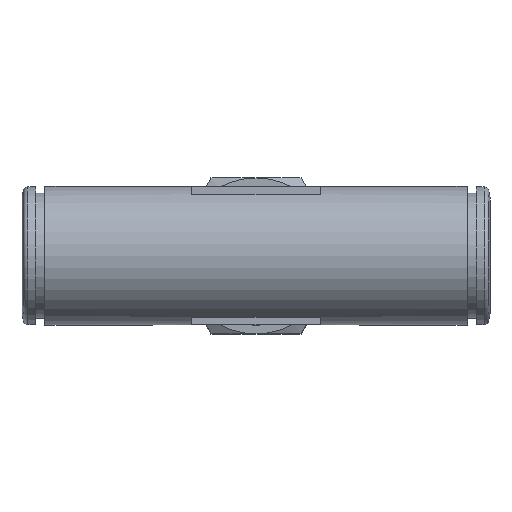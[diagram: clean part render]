
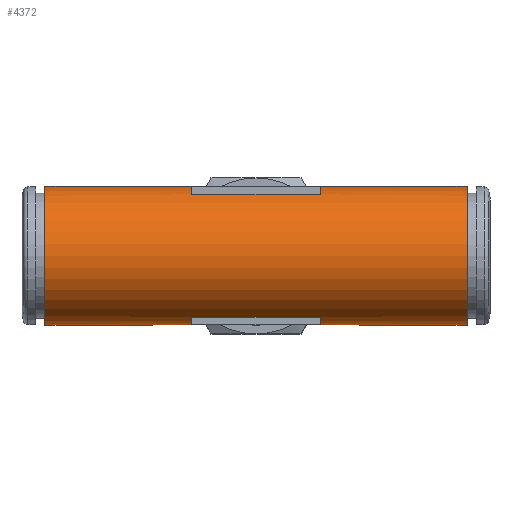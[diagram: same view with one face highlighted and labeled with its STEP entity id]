
A CAD part, top view. The second image highlights one B-rep face of the part: STEP entity #4372.
In plain terms, the highlighted cylindrical face has radius 7.55 mm (diameter 15.1 mm), a full revolution.
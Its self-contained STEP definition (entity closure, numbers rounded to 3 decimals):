
#16=ELLIPSE('',#4139,10.677,7.55);
#17=ELLIPSE('',#4146,10.677,7.55);
#2057=CYLINDRICAL_SURFACE('',#4132,7.55);
#2084=VECTOR('',#3694,1.);
#2085=VECTOR('',#3701,1.);
#2086=VECTOR('',#3704,1.);
#2087=VECTOR('',#3711,1.);
#2088=VECTOR('',#3718,1.);
#2089=VECTOR('',#3721,1.);
#2148=LINE('',#5775,#2084);
#2149=LINE('',#5783,#2085);
#2150=LINE('',#5787,#2086);
#2151=LINE('',#5795,#2087);
#2152=LINE('',#5803,#2088);
#2153=LINE('',#5807,#2089);
#2409=ORIENTED_EDGE('',*,*,#2979,.F.);
#2410=ORIENTED_EDGE('',*,*,#2978,.T.);
#2411=ORIENTED_EDGE('',*,*,#2980,.F.);
#2412=ORIENTED_EDGE('',*,*,#2981,.F.);
#2413=ORIENTED_EDGE('',*,*,#2982,.F.);
#2414=ORIENTED_EDGE('',*,*,#2983,.F.);
#2415=ORIENTED_EDGE('',*,*,#2984,.F.);
#2416=ORIENTED_EDGE('',*,*,#2985,.F.);
#2417=ORIENTED_EDGE('',*,*,#2986,.F.);
#2418=ORIENTED_EDGE('',*,*,#2987,.F.);
#2419=ORIENTED_EDGE('',*,*,#2988,.F.);
#2420=ORIENTED_EDGE('',*,*,#2989,.F.);
#2421=ORIENTED_EDGE('',*,*,#2990,.F.);
#2422=ORIENTED_EDGE('',*,*,#2991,.F.);
#2423=ORIENTED_EDGE('',*,*,#2992,.F.);
#2424=ORIENTED_EDGE('',*,*,#2993,.F.);
#2425=ORIENTED_EDGE('',*,*,#2994,.F.);
#2426=ORIENTED_EDGE('',*,*,#2995,.F.);
#2427=ORIENTED_EDGE('',*,*,#2996,.F.);
#2428=ORIENTED_EDGE('',*,*,#2997,.F.);
#2429=ORIENTED_EDGE('',*,*,#2998,.F.);
#2430=ORIENTED_EDGE('',*,*,#2999,.F.);
#2693=CIRCLE('',#4131,7.55);
#2694=CIRCLE('',#4133,7.55);
#2695=CIRCLE('',#4134,7.55);
#2696=CIRCLE('',#4135,7.55);
#2697=CIRCLE('',#4136,7.55);
#2698=CIRCLE('',#4137,7.55);
#2699=CIRCLE('',#4138,7.55);
#2700=CIRCLE('',#4140,7.55);
#2701=CIRCLE('',#4141,7.55);
#2702=CIRCLE('',#4142,7.55);
#2703=CIRCLE('',#4143,7.55);
#2704=CIRCLE('',#4144,7.55);
#2705=CIRCLE('',#4145,7.55);
#2706=CIRCLE('',#4147,7.55);
#2816=VERTEX_POINT('',#5764);
#2817=VERTEX_POINT('',#5767);
#2818=VERTEX_POINT('',#5769);
#2819=VERTEX_POINT('',#5770);
#2820=VERTEX_POINT('',#5772);
#2821=VERTEX_POINT('',#5774);
#2822=VERTEX_POINT('',#5776);
#2823=VERTEX_POINT('',#5778);
#2824=VERTEX_POINT('',#5780);
#2825=VERTEX_POINT('',#5782);
#2826=VERTEX_POINT('',#5784);
#2827=VERTEX_POINT('',#5786);
#2828=VERTEX_POINT('',#5788);
#2829=VERTEX_POINT('',#5790);
#2830=VERTEX_POINT('',#5792);
#2831=VERTEX_POINT('',#5794);
#2832=VERTEX_POINT('',#5796);
#2833=VERTEX_POINT('',#5798);
#2834=VERTEX_POINT('',#5800);
#2835=VERTEX_POINT('',#5802);
#2836=VERTEX_POINT('',#5804);
#2837=VERTEX_POINT('',#5806);
#2978=EDGE_CURVE('',#2816,#2816,#2693,.T.);
#2979=EDGE_CURVE('',#2817,#2817,#2694,.T.);
#2980=EDGE_CURVE('',#2818,#2819,#2695,.T.);
#2981=EDGE_CURVE('',#2820,#2818,#2696,.T.);
#2982=EDGE_CURVE('',#2821,#2820,#2148,.T.);
#2983=EDGE_CURVE('',#2822,#2821,#2697,.T.);
#2984=EDGE_CURVE('',#2823,#2822,#2698,.T.);
#2985=EDGE_CURVE('',#2824,#2823,#2699,.T.);
#2986=EDGE_CURVE('',#2825,#2824,#2149,.T.);
#2987=EDGE_CURVE('',#2826,#2825,#16,.T.);
#2988=EDGE_CURVE('',#2827,#2826,#2150,.T.);
#2989=EDGE_CURVE('',#2828,#2827,#2700,.T.);
#2990=EDGE_CURVE('',#2829,#2828,#2701,.T.);
#2991=EDGE_CURVE('',#2830,#2829,#2702,.T.);
#2992=EDGE_CURVE('',#2831,#2830,#2151,.T.);
#2993=EDGE_CURVE('',#2832,#2831,#2703,.T.);
#2994=EDGE_CURVE('',#2833,#2832,#2704,.T.);
#2995=EDGE_CURVE('',#2834,#2833,#2705,.T.);
#2996=EDGE_CURVE('',#2835,#2834,#2152,.T.);
#2997=EDGE_CURVE('',#2836,#2835,#17,.T.);
#2998=EDGE_CURVE('',#2837,#2836,#2153,.T.);
#2999=EDGE_CURVE('',#2819,#2837,#2706,.T.);
#3165=EDGE_LOOP('',(#2409));
#3166=EDGE_LOOP('',(#2410));
#3167=EDGE_LOOP('',(#2411,#2412,#2413,#2414,#2415,#2416,#2417,#2418,#2419,
#2420,#2421,#2422,#2423,#2424,#2425,#2426,#2427,#2428,#2429,#2430));
#3349=FACE_BOUND('',#3165,.T.);
#3350=FACE_BOUND('',#3166,.T.);
#3351=FACE_BOUND('',#3167,.T.);
#3684=DIRECTION('',(1.,0.,0.));
#3685=DIRECTION('',(0.,7.55,0.));
#3686=DIRECTION('',(-1.,0.,0.));
#3687=DIRECTION('',(0.,1.,0.));
#3688=DIRECTION('',(1.,0.,0.));
#3689=DIRECTION('',(0.,7.55,0.));
#3690=DIRECTION('',(-1.,0.,0.));
#3691=DIRECTION('',(0.,0.867,-7.5));
#3692=DIRECTION('',(-1.,0.,0.));
#3693=DIRECTION('',(0.,3.5,-6.69));
#3694=DIRECTION('',(14.,0.,0.));
#3695=DIRECTION('',(1.,0.,0.));
#3696=DIRECTION('',(0.,0.867,-7.5));
#3697=DIRECTION('',(1.,0.,0.));
#3698=DIRECTION('',(0.,-0.867,-7.5));
#3699=DIRECTION('',(1.,0.,0.));
#3700=DIRECTION('',(0.,-3.5,-6.69));
#3701=DIRECTION('',(-3.5,0.,0.));
#3702=DIRECTION('',(0.707,-0.707,0.));
#3703=DIRECTION('',(-0.707,-0.707,0.));
#3704=DIRECTION('',(3.5,0.,0.));
#3705=DIRECTION('',(1.,0.,0.));
#3706=DIRECTION('',(0.,-0.867,7.5));
#3707=DIRECTION('',(1.,0.,0.));
#3708=DIRECTION('',(0.,0.867,7.5));
#3709=DIRECTION('',(1.,0.,0.));
#3710=DIRECTION('',(0.,3.5,6.69));
#3711=DIRECTION('',(-14.,0.,0.));
#3712=DIRECTION('',(-1.,0.,0.));
#3713=DIRECTION('',(0.,0.867,7.5));
#3714=DIRECTION('',(-1.,0.,0.));
#3715=DIRECTION('',(0.,-0.867,7.5));
#3716=DIRECTION('',(-1.,0.,0.));
#3717=DIRECTION('',(0.,-3.5,6.69));
#3718=DIRECTION('',(3.5,0.,0.));
#3719=DIRECTION('',(-0.707,-0.707,0.));
#3720=DIRECTION('',(0.707,-0.707,0.));
#3721=DIRECTION('',(-3.5,0.,0.));
#3722=DIRECTION('',(-1.,0.,0.));
#3723=DIRECTION('',(0.,-0.867,-7.5));
#4131=AXIS2_PLACEMENT_3D('',#5765,#3684,#3685);
#4132=AXIS2_PLACEMENT_3D('',#5766,#3686,#3687);
#4133=AXIS2_PLACEMENT_3D('',#5768,#3688,#3689);
#4134=AXIS2_PLACEMENT_3D('',#5771,#3690,#3691);
#4135=AXIS2_PLACEMENT_3D('',#5773,#3692,#3693);
#4136=AXIS2_PLACEMENT_3D('',#5777,#3695,#3696);
#4137=AXIS2_PLACEMENT_3D('',#5779,#3697,#3698);
#4138=AXIS2_PLACEMENT_3D('',#5781,#3699,#3700);
#4139=AXIS2_PLACEMENT_3D('',#5785,#3702,#3703);
#4140=AXIS2_PLACEMENT_3D('',#5789,#3705,#3706);
#4141=AXIS2_PLACEMENT_3D('',#5791,#3707,#3708);
#4142=AXIS2_PLACEMENT_3D('',#5793,#3709,#3710);
#4143=AXIS2_PLACEMENT_3D('',#5797,#3712,#3713);
#4144=AXIS2_PLACEMENT_3D('',#5799,#3714,#3715);
#4145=AXIS2_PLACEMENT_3D('',#5801,#3716,#3717);
#4146=AXIS2_PLACEMENT_3D('',#5805,#3719,#3720);
#4147=AXIS2_PLACEMENT_3D('',#5808,#3722,#3723);
#4372=ADVANCED_FACE('',(#3349,#3350,#3351),#2057,.T.);
#5764=CARTESIAN_POINT('',(15.312,39.674,0.));
#5765=CARTESIAN_POINT('',(15.312,32.124,0.));
#5766=CARTESIAN_POINT('',(61.312,32.124,0.));
#5767=CARTESIAN_POINT('',(61.312,39.674,0.));
#5768=CARTESIAN_POINT('',(61.312,32.124,0.));
#5769=CARTESIAN_POINT('',(45.312,32.992,-7.5));
#5770=CARTESIAN_POINT('',(45.312,31.257,-7.5));
#5771=CARTESIAN_POINT('',(45.312,32.124,0.));
#5772=CARTESIAN_POINT('',(45.312,35.624,-6.69));
#5773=CARTESIAN_POINT('',(45.312,32.124,0.));
#5774=CARTESIAN_POINT('',(31.312,35.624,-6.69));
#5775=CARTESIAN_POINT('',(31.312,35.624,-6.69));
#5776=CARTESIAN_POINT('',(31.312,32.992,-7.5));
#5777=CARTESIAN_POINT('',(31.312,32.124,0.));
#5778=CARTESIAN_POINT('',(31.312,31.257,-7.5));
#5779=CARTESIAN_POINT('',(31.312,32.124,0.));
#5780=CARTESIAN_POINT('',(31.312,28.624,-6.69));
#5781=CARTESIAN_POINT('',(31.312,32.124,0.));
#5782=CARTESIAN_POINT('',(34.812,28.624,-6.69));
#5783=CARTESIAN_POINT('',(34.812,28.624,-6.69));
#5784=CARTESIAN_POINT('',(34.812,28.624,6.69));
#5785=CARTESIAN_POINT('',(38.312,32.124,0.));
#5786=CARTESIAN_POINT('',(31.312,28.624,6.69));
#5787=CARTESIAN_POINT('',(31.312,28.624,6.69));
#5788=CARTESIAN_POINT('',(31.312,31.257,7.5));
#5789=CARTESIAN_POINT('',(31.312,32.124,0.));
#5790=CARTESIAN_POINT('',(31.312,32.992,7.5));
#5791=CARTESIAN_POINT('',(31.312,32.124,0.));
#5792=CARTESIAN_POINT('',(31.312,35.624,6.69));
#5793=CARTESIAN_POINT('',(31.312,32.124,0.));
#5794=CARTESIAN_POINT('',(45.312,35.624,6.69));
#5795=CARTESIAN_POINT('',(45.312,35.624,6.69));
#5796=CARTESIAN_POINT('',(45.312,32.992,7.5));
#5797=CARTESIAN_POINT('',(45.312,32.124,0.));
#5798=CARTESIAN_POINT('',(45.312,31.257,7.5));
#5799=CARTESIAN_POINT('',(45.312,32.124,0.));
#5800=CARTESIAN_POINT('',(45.312,28.624,6.69));
#5801=CARTESIAN_POINT('',(45.312,32.124,0.));
#5802=CARTESIAN_POINT('',(41.812,28.624,6.69));
#5803=CARTESIAN_POINT('',(41.812,28.624,6.69));
#5804=CARTESIAN_POINT('',(41.812,28.624,-6.69));
#5805=CARTESIAN_POINT('',(38.312,32.124,0.));
#5806=CARTESIAN_POINT('',(45.312,28.624,-6.69));
#5807=CARTESIAN_POINT('',(45.312,28.624,-6.69));
#5808=CARTESIAN_POINT('',(45.312,32.124,0.));
